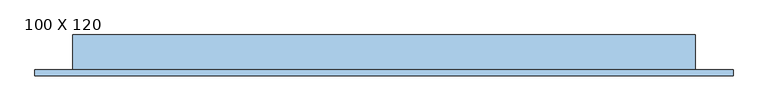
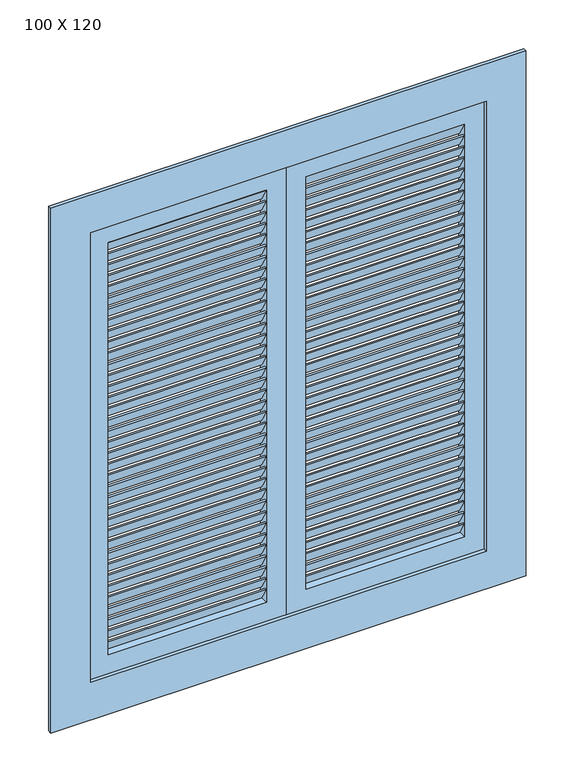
"""IFC4 building model written with IfcOpenShell, lengths in millimetres: window geometry, VENEZIANA DE ABRIR PARA FORA - 2 FOLHAS : 100 X 120."""

from ifc_helpers import new_model, si_unit, frame, origin, place, context, project, spatial, polyline, outline, extrude, source, transform, mapped, element, save


def window_100_x_120_d4ad384e(model_context):
    return source(origin(), model_context, "Body", "SweptSolid", [
        extrude(outline(polyline([(-55.8758395, 2085.4166667), (-75.8758395, 2120.4166667), (-70.8758395, 2120.4166667), (-50.8758395, 2085.4166667), (-55.8758395, 2085.4166667)])), frame((-320.5964491, 0.0, 0.0), z_axis=(1.0, 0.0, 0.0), x_axis=(0.0, 1.0, 0.0)), (0.0, 0.0, 1.0), 400.0),
        extrude(outline(polyline([(-55.8758395, 2055.8333333), (-75.8758395, 2090.8333333), (-70.8758395, 2090.8333333), (-50.8758395, 2055.8333333), (-55.8758395, 2055.8333333)])), frame((-320.5964491, 0.0, 0.0), z_axis=(1.0, 0.0, 0.0), x_axis=(0.0, 1.0, 0.0)), (0.0, 0.0, 1.0), 400.0),
        extrude(outline(polyline([(-55.8758395, 2026.25), (-75.8758395, 2061.25), (-70.8758395, 2061.25), (-50.8758395, 2026.25), (-55.8758395, 2026.25)])), frame((-320.5964491, 0.0, 0.0), z_axis=(1.0, 0.0, 0.0), x_axis=(0.0, 1.0, 0.0)), (0.0, 0.0, 1.0), 400.0),
        extrude(outline(polyline([(-55.8758395, 1996.6666667), (-75.8758395, 2031.6666667), (-70.8758395, 2031.6666667), (-50.8758395, 1996.6666667), (-55.8758395, 1996.6666667)])), frame((-320.5964491, 0.0, 0.0), z_axis=(1.0, 0.0, 0.0), x_axis=(0.0, 1.0, 0.0)), (0.0, 0.0, 1.0), 400.0),
        extrude(outline(polyline([(-55.8758395, 1967.0833333), (-75.8758395, 2002.0833333), (-70.8758395, 2002.0833333), (-50.8758395, 1967.0833333), (-55.8758395, 1967.0833333)])), frame((-320.5964491, 0.0, 0.0), z_axis=(1.0, 0.0, 0.0), x_axis=(0.0, 1.0, 0.0)), (0.0, 0.0, 1.0), 400.0),
        extrude(outline(polyline([(-55.8758395, 1937.5), (-75.8758395, 1972.5), (-70.8758395, 1972.5), (-50.8758395, 1937.5), (-55.8758395, 1937.5)])), frame((-320.5964491, 0.0, 0.0), z_axis=(1.0, 0.0, 0.0), x_axis=(0.0, 1.0, 0.0)), (0.0, 0.0, 1.0), 400.0),
        extrude(outline(polyline([(-55.8758395, 1907.9166667), (-75.8758395, 1942.9166667), (-70.8758395, 1942.9166667), (-50.8758395, 1907.9166667), (-55.8758395, 1907.9166667)])), frame((-320.5964491, 0.0, 0.0), z_axis=(1.0, 0.0, 0.0), x_axis=(0.0, 1.0, 0.0)), (0.0, 0.0, 1.0), 400.0),
        extrude(outline(polyline([(-55.8758395, 1878.3333333), (-75.8758395, 1913.3333333), (-70.8758395, 1913.3333333), (-50.8758395, 1878.3333333), (-55.8758395, 1878.3333333)])), frame((-320.5964491, 0.0, 0.0), z_axis=(1.0, 0.0, 0.0), x_axis=(0.0, 1.0, 0.0)), (0.0, 0.0, 1.0), 400.0),
        extrude(outline(polyline([(-55.8758395, 1848.75), (-75.8758395, 1883.75), (-70.8758395, 1883.75), (-50.8758395, 1848.75), (-55.8758395, 1848.75)])), frame((-320.5964491, 0.0, 0.0), z_axis=(1.0, 0.0, 0.0), x_axis=(0.0, 1.0, 0.0)), (0.0, 0.0, 1.0), 400.0),
        extrude(outline(polyline([(-55.8758395, 1819.1666667), (-75.8758395, 1854.1666667), (-70.8758395, 1854.1666667), (-50.8758395, 1819.1666667), (-55.8758395, 1819.1666667)])), frame((-320.5964491, 0.0, 0.0), z_axis=(1.0, 0.0, 0.0), x_axis=(0.0, 1.0, 0.0)), (0.0, 0.0, 1.0), 400.0),
        extrude(outline(polyline([(-55.8758395, 1789.5833333), (-75.8758395, 1824.5833333), (-70.8758395, 1824.5833333), (-50.8758395, 1789.5833333), (-55.8758395, 1789.5833333)])), frame((-320.5964491, 0.0, 0.0), z_axis=(1.0, 0.0, 0.0), x_axis=(0.0, 1.0, 0.0)), (0.0, 0.0, 1.0), 400.0),
        extrude(outline(polyline([(-55.8758395, 1760.0), (-75.8758395, 1795.0), (-70.8758395, 1795.0), (-50.8758395, 1760.0), (-55.8758395, 1760.0)])), frame((-320.5964491, 0.0, 0.0), z_axis=(1.0, 0.0, 0.0), x_axis=(0.0, 1.0, 0.0)), (0.0, 0.0, 1.0), 400.0),
        extrude(outline(polyline([(-55.8758395, 1730.4166667), (-75.8758395, 1765.4166667), (-70.8758395, 1765.4166667), (-50.8758395, 1730.4166667), (-55.8758395, 1730.4166667)])), frame((-320.5964491, 0.0, 0.0), z_axis=(1.0, 0.0, 0.0), x_axis=(0.0, 1.0, 0.0)), (0.0, 0.0, 1.0), 400.0),
        extrude(outline(polyline([(-55.8758395, 1700.8333333), (-75.8758395, 1735.8333333), (-70.8758395, 1735.8333333), (-50.8758395, 1700.8333333), (-55.8758395, 1700.8333333)])), frame((-320.5964491, 0.0, 0.0), z_axis=(1.0, 0.0, 0.0), x_axis=(0.0, 1.0, 0.0)), (0.0, 0.0, 1.0), 400.0),
        extrude(outline(polyline([(-55.8758395, 1671.25), (-75.8758395, 1706.25), (-70.8758395, 1706.25), (-50.8758395, 1671.25), (-55.8758395, 1671.25)])), frame((-320.5964491, 0.0, 0.0), z_axis=(1.0, 0.0, 0.0), x_axis=(0.0, 1.0, 0.0)), (0.0, 0.0, 1.0), 400.0),
        extrude(outline(polyline([(-55.8758395, 1641.6666667), (-75.8758395, 1676.6666667), (-70.8758395, 1676.6666667), (-50.8758395, 1641.6666667), (-55.8758395, 1641.6666667)])), frame((-320.5964491, 0.0, 0.0), z_axis=(1.0, 0.0, 0.0), x_axis=(0.0, 1.0, 0.0)), (0.0, 0.0, 1.0), 400.0),
        extrude(outline(polyline([(-55.8758395, 1612.0833333), (-75.8758395, 1647.0833333), (-70.8758395, 1647.0833333), (-50.8758395, 1612.0833333), (-55.8758395, 1612.0833333)])), frame((-320.5964491, 0.0, 0.0), z_axis=(1.0, 0.0, 0.0), x_axis=(0.0, 1.0, 0.0)), (0.0, 0.0, 1.0), 400.0),
        extrude(outline(polyline([(-55.8758395, 1582.5), (-75.8758395, 1617.5), (-70.8758395, 1617.5), (-50.8758395, 1582.5), (-55.8758395, 1582.5)])), frame((-320.5964491, 0.0, 0.0), z_axis=(1.0, 0.0, 0.0), x_axis=(0.0, 1.0, 0.0)), (0.0, 0.0, 1.0), 400.0),
        extrude(outline(polyline([(-55.8758395, 1552.9166667), (-75.8758395, 1587.9166667), (-70.8758395, 1587.9166667), (-50.8758395, 1552.9166667), (-55.8758395, 1552.9166667)])), frame((-320.5964491, 0.0, 0.0), z_axis=(1.0, 0.0, 0.0), x_axis=(0.0, 1.0, 0.0)), (0.0, 0.0, 1.0), 400.0),
        extrude(outline(polyline([(-55.8758395, 1523.3333333), (-75.8758395, 1558.3333333), (-70.8758395, 1558.3333333), (-50.8758395, 1523.3333333), (-55.8758395, 1523.3333333)])), frame((-320.5964491, 0.0, 0.0), z_axis=(1.0, 0.0, 0.0), x_axis=(0.0, 1.0, 0.0)), (0.0, 0.0, 1.0), 400.0),
        extrude(outline(polyline([(-55.8758395, 1493.75), (-75.8758395, 1528.75), (-70.8758395, 1528.75), (-50.8758395, 1493.75), (-55.8758395, 1493.75)])), frame((-320.5964491, 0.0, 0.0), z_axis=(1.0, 0.0, 0.0), x_axis=(0.0, 1.0, 0.0)), (0.0, 0.0, 1.0), 400.0),
        extrude(outline(polyline([(-55.8758395, 1464.1666667), (-75.8758395, 1499.1666667), (-70.8758395, 1499.1666667), (-50.8758395, 1464.1666667), (-55.8758395, 1464.1666667)])), frame((-320.5964491, 0.0, 0.0), z_axis=(1.0, 0.0, 0.0), x_axis=(0.0, 1.0, 0.0)), (0.0, 0.0, 1.0), 400.0),
        extrude(outline(polyline([(-55.8758395, 1434.5833333), (-75.8758395, 1469.5833333), (-70.8758395, 1469.5833333), (-50.8758395, 1434.5833333), (-55.8758395, 1434.5833333)])), frame((-320.5964491, 0.0, 0.0), z_axis=(1.0, 0.0, 0.0), x_axis=(0.0, 1.0, 0.0)), (0.0, 0.0, 1.0), 400.0),
        extrude(outline(polyline([(-55.8758395, 1405.0), (-75.8758395, 1440.0), (-70.8758395, 1440.0), (-50.8758395, 1405.0), (-55.8758395, 1405.0)])), frame((-320.5964491, 0.0, 0.0), z_axis=(1.0, 0.0, 0.0), x_axis=(0.0, 1.0, 0.0)), (0.0, 0.0, 1.0), 400.0),
        extrude(outline(polyline([(-55.8758395, 1375.4166667), (-75.8758395, 1410.4166667), (-70.8758395, 1410.4166667), (-50.8758395, 1375.4166667), (-55.8758395, 1375.4166667)])), frame((-320.5964491, 0.0, 0.0), z_axis=(1.0, 0.0, 0.0), x_axis=(0.0, 1.0, 0.0)), (0.0, 0.0, 1.0), 400.0),
        extrude(outline(polyline([(-55.8758395, 1345.8333333), (-75.8758395, 1380.8333333), (-70.8758395, 1380.8333333), (-50.8758395, 1345.8333333), (-55.8758395, 1345.8333333)])), frame((-320.5964491, 0.0, 0.0), z_axis=(1.0, 0.0, 0.0), x_axis=(0.0, 1.0, 0.0)), (0.0, 0.0, 1.0), 400.0),
        extrude(outline(polyline([(-55.8758395, 1316.25), (-75.8758395, 1351.25), (-70.8758395, 1351.25), (-50.8758395, 1316.25), (-55.8758395, 1316.25)])), frame((-320.5964491, 0.0, 0.0), z_axis=(1.0, 0.0, 0.0), x_axis=(0.0, 1.0, 0.0)), (0.0, 0.0, 1.0), 400.0),
        extrude(outline(polyline([(-55.8758395, 1286.6666667), (-75.8758395, 1321.6666667), (-70.8758395, 1321.6666667), (-50.8758395, 1286.6666667), (-55.8758395, 1286.6666667)])), frame((-320.5964491, 0.0, 0.0), z_axis=(1.0, 0.0, 0.0), x_axis=(0.0, 1.0, 0.0)), (0.0, 0.0, 1.0), 400.0),
        extrude(outline(polyline([(-55.8758395, 1257.0833333), (-75.8758395, 1292.0833333), (-70.8758395, 1292.0833333), (-50.8758395, 1257.0833333), (-55.8758395, 1257.0833333)])), frame((-320.5964491, 0.0, 0.0), z_axis=(1.0, 0.0, 0.0), x_axis=(0.0, 1.0, 0.0)), (0.0, 0.0, 1.0), 400.0),
        extrude(outline(polyline([(-55.8758395, 1227.5), (-75.8758395, 1262.5), (-70.8758395, 1262.5), (-50.8758395, 1227.5), (-55.8758395, 1227.5)])), frame((-320.5964491, 0.0, 0.0), z_axis=(1.0, 0.0, 0.0), x_axis=(0.0, 1.0, 0.0)), (0.0, 0.0, 1.0), 400.0),
        extrude(outline(polyline([(-55.8758395, 1197.9166667), (-75.8758395, 1232.9166667), (-70.8758395, 1232.9166667), (-50.8758395, 1197.9166667), (-55.8758395, 1197.9166667)])), frame((-320.5964491, 0.0, 0.0), z_axis=(1.0, 0.0, 0.0), x_axis=(0.0, 1.0, 0.0)), (0.0, 0.0, 1.0), 400.0),
        extrude(outline(polyline([(-55.8758395, 1168.3333333), (-75.8758395, 1203.3333333), (-70.8758395, 1203.3333333), (-50.8758395, 1168.3333333), (-55.8758395, 1168.3333333)])), frame((-320.5964491, 0.0, 0.0), z_axis=(1.0, 0.0, 0.0), x_axis=(0.0, 1.0, 0.0)), (0.0, 0.0, 1.0), 400.0),
        extrude(outline(polyline([(-55.8758395, 1138.75), (-75.8758395, 1173.75), (-70.8758395, 1173.75), (-50.8758395, 1138.75), (-55.8758395, 1138.75)])), frame((-320.5964491, 0.0, 0.0), z_axis=(1.0, 0.0, 0.0), x_axis=(0.0, 1.0, 0.0)), (0.0, 0.0, 1.0), 400.0),
        extrude(outline(polyline([(-55.8758395, 1109.1666667), (-75.8758395, 1144.1666667), (-70.8758395, 1144.1666667), (-50.8758395, 1109.1666667), (-55.8758395, 1109.1666667)])), frame((-320.5964491, 0.0, 0.0), z_axis=(1.0, 0.0, 0.0), x_axis=(0.0, 1.0, 0.0)), (0.0, 0.0, 1.0), 400.0),
        extrude(outline(polyline([(-55.8758395, 1079.5833333), (-75.8758395, 1114.5833333), (-70.8758395, 1114.5833333), (-50.8758395, 1079.5833333), (-55.8758395, 1079.5833333)])), frame((-320.5964491, 0.0, 0.0), z_axis=(1.0, 0.0, 0.0), x_axis=(0.0, 1.0, 0.0)), (0.0, 0.0, 1.0), 400.0),
        extrude(outline(polyline([(-55.8758395, 2115.0), (-75.8758395, 2150.0), (-70.8758395, 2150.0), (-50.8758395, 2115.0), (-55.8758395, 2115.0)])), frame((-320.5964491, 0.0, 0.0), z_axis=(1.0, 0.0, 0.0), x_axis=(0.0, 1.0, 0.0)), (0.0, 0.0, 1.0), 400.0),
        extrude(outline(polyline([(-55.8758395, 1050.0), (-75.8758395, 1085.0), (-70.8758395, 1085.0), (-50.8758395, 1050.0), (-55.8758395, 1050.0)])), frame((-320.5964491, 0.0, 0.0), z_axis=(1.0, 0.0, 0.0), x_axis=(0.0, 1.0, 0.0)), (0.0, 0.0, 1.0), 400.0),
        extrude(outline(polyline([(2200.0, 129.4035509), (2200.0, -370.5964491), (1000.0, -370.5964491), (1000.0, 129.4035509), (2200.0, 129.4035509)]), holes=[polyline([(2150.0, 79.4035509), (1050.0, 79.4035509), (1050.0, -320.5964491), (2150.0, -320.5964491), (2150.0, 79.4035509)])]), frame((0.0, -75.8758395, 0.0), z_axis=(0.0, 1.0, 0.0), x_axis=(0.0, 0.0, 1.0)), (0.0, 0.0, 1.0), 25.0),
        extrude(outline(polyline([(-55.8758395, 2085.4166667), (-75.8758395, 2120.4166667), (-70.8758395, 2120.4166667), (-50.8758395, 2085.4166667), (-55.8758395, 2085.4166667)])), frame((179.4035509, 0.0, 0.0), z_axis=(1.0, 0.0, 0.0), x_axis=(0.0, 1.0, 0.0)), (0.0, 0.0, 1.0), 400.0),
        extrude(outline(polyline([(-55.8758395, 2055.8333333), (-75.8758395, 2090.8333333), (-70.8758395, 2090.8333333), (-50.8758395, 2055.8333333), (-55.8758395, 2055.8333333)])), frame((179.4035509, 0.0, 0.0), z_axis=(1.0, 0.0, 0.0), x_axis=(0.0, 1.0, 0.0)), (0.0, 0.0, 1.0), 400.0),
        extrude(outline(polyline([(-55.8758395, 2026.25), (-75.8758395, 2061.25), (-70.8758395, 2061.25), (-50.8758395, 2026.25), (-55.8758395, 2026.25)])), frame((179.4035509, 0.0, 0.0), z_axis=(1.0, 0.0, 0.0), x_axis=(0.0, 1.0, 0.0)), (0.0, 0.0, 1.0), 400.0),
        extrude(outline(polyline([(-55.8758395, 1996.6666667), (-75.8758395, 2031.6666667), (-70.8758395, 2031.6666667), (-50.8758395, 1996.6666667), (-55.8758395, 1996.6666667)])), frame((179.4035509, 0.0, 0.0), z_axis=(1.0, 0.0, 0.0), x_axis=(0.0, 1.0, 0.0)), (0.0, 0.0, 1.0), 400.0),
        extrude(outline(polyline([(-55.8758395, 1967.0833333), (-75.8758395, 2002.0833333), (-70.8758395, 2002.0833333), (-50.8758395, 1967.0833333), (-55.8758395, 1967.0833333)])), frame((179.4035509, 0.0, 0.0), z_axis=(1.0, 0.0, 0.0), x_axis=(0.0, 1.0, 0.0)), (0.0, 0.0, 1.0), 400.0),
        extrude(outline(polyline([(-55.8758395, 1937.5), (-75.8758395, 1972.5), (-70.8758395, 1972.5), (-50.8758395, 1937.5), (-55.8758395, 1937.5)])), frame((179.4035509, 0.0, 0.0), z_axis=(1.0, 0.0, 0.0), x_axis=(0.0, 1.0, 0.0)), (0.0, 0.0, 1.0), 400.0),
        extrude(outline(polyline([(-55.8758395, 1907.9166667), (-75.8758395, 1942.9166667), (-70.8758395, 1942.9166667), (-50.8758395, 1907.9166667), (-55.8758395, 1907.9166667)])), frame((179.4035509, 0.0, 0.0), z_axis=(1.0, 0.0, 0.0), x_axis=(0.0, 1.0, 0.0)), (0.0, 0.0, 1.0), 400.0),
        extrude(outline(polyline([(-55.8758395, 1878.3333333), (-75.8758395, 1913.3333333), (-70.8758395, 1913.3333333), (-50.8758395, 1878.3333333), (-55.8758395, 1878.3333333)])), frame((179.4035509, 0.0, 0.0), z_axis=(1.0, 0.0, 0.0), x_axis=(0.0, 1.0, 0.0)), (0.0, 0.0, 1.0), 400.0),
        extrude(outline(polyline([(-55.8758395, 1848.75), (-75.8758395, 1883.75), (-70.8758395, 1883.75), (-50.8758395, 1848.75), (-55.8758395, 1848.75)])), frame((179.4035509, 0.0, 0.0), z_axis=(1.0, 0.0, 0.0), x_axis=(0.0, 1.0, 0.0)), (0.0, 0.0, 1.0), 400.0),
        extrude(outline(polyline([(-55.8758395, 1819.1666667), (-75.8758395, 1854.1666667), (-70.8758395, 1854.1666667), (-50.8758395, 1819.1666667), (-55.8758395, 1819.1666667)])), frame((179.4035509, 0.0, 0.0), z_axis=(1.0, 0.0, 0.0), x_axis=(0.0, 1.0, 0.0)), (0.0, 0.0, 1.0), 400.0),
        extrude(outline(polyline([(-55.8758395, 1789.5833333), (-75.8758395, 1824.5833333), (-70.8758395, 1824.5833333), (-50.8758395, 1789.5833333), (-55.8758395, 1789.5833333)])), frame((179.4035509, 0.0, 0.0), z_axis=(1.0, 0.0, 0.0), x_axis=(0.0, 1.0, 0.0)), (0.0, 0.0, 1.0), 400.0),
        extrude(outline(polyline([(-55.8758395, 1760.0), (-75.8758395, 1795.0), (-70.8758395, 1795.0), (-50.8758395, 1760.0), (-55.8758395, 1760.0)])), frame((179.4035509, 0.0, 0.0), z_axis=(1.0, 0.0, 0.0), x_axis=(0.0, 1.0, 0.0)), (0.0, 0.0, 1.0), 400.0),
        extrude(outline(polyline([(-55.8758395, 1730.4166667), (-75.8758395, 1765.4166667), (-70.8758395, 1765.4166667), (-50.8758395, 1730.4166667), (-55.8758395, 1730.4166667)])), frame((179.4035509, 0.0, 0.0), z_axis=(1.0, 0.0, 0.0), x_axis=(0.0, 1.0, 0.0)), (0.0, 0.0, 1.0), 400.0),
        extrude(outline(polyline([(-55.8758395, 1700.8333333), (-75.8758395, 1735.8333333), (-70.8758395, 1735.8333333), (-50.8758395, 1700.8333333), (-55.8758395, 1700.8333333)])), frame((179.4035509, 0.0, 0.0), z_axis=(1.0, 0.0, 0.0), x_axis=(0.0, 1.0, 0.0)), (0.0, 0.0, 1.0), 400.0),
        extrude(outline(polyline([(-55.8758395, 1671.25), (-75.8758395, 1706.25), (-70.8758395, 1706.25), (-50.8758395, 1671.25), (-55.8758395, 1671.25)])), frame((179.4035509, 0.0, 0.0), z_axis=(1.0, 0.0, 0.0), x_axis=(0.0, 1.0, 0.0)), (0.0, 0.0, 1.0), 400.0),
        extrude(outline(polyline([(-55.8758395, 1641.6666667), (-75.8758395, 1676.6666667), (-70.8758395, 1676.6666667), (-50.8758395, 1641.6666667), (-55.8758395, 1641.6666667)])), frame((179.4035509, 0.0, 0.0), z_axis=(1.0, 0.0, 0.0), x_axis=(0.0, 1.0, 0.0)), (0.0, 0.0, 1.0), 400.0),
        extrude(outline(polyline([(-55.8758395, 1612.0833333), (-75.8758395, 1647.0833333), (-70.8758395, 1647.0833333), (-50.8758395, 1612.0833333), (-55.8758395, 1612.0833333)])), frame((179.4035509, 0.0, 0.0), z_axis=(1.0, 0.0, 0.0), x_axis=(0.0, 1.0, 0.0)), (0.0, 0.0, 1.0), 400.0),
        extrude(outline(polyline([(-55.8758395, 1582.5), (-75.8758395, 1617.5), (-70.8758395, 1617.5), (-50.8758395, 1582.5), (-55.8758395, 1582.5)])), frame((179.4035509, 0.0, 0.0), z_axis=(1.0, 0.0, 0.0), x_axis=(0.0, 1.0, 0.0)), (0.0, 0.0, 1.0), 400.0),
        extrude(outline(polyline([(-55.8758395, 1552.9166667), (-75.8758395, 1587.9166667), (-70.8758395, 1587.9166667), (-50.8758395, 1552.9166667), (-55.8758395, 1552.9166667)])), frame((179.4035509, 0.0, 0.0), z_axis=(1.0, 0.0, 0.0), x_axis=(0.0, 1.0, 0.0)), (0.0, 0.0, 1.0), 400.0),
        extrude(outline(polyline([(-55.8758395, 1523.3333333), (-75.8758395, 1558.3333333), (-70.8758395, 1558.3333333), (-50.8758395, 1523.3333333), (-55.8758395, 1523.3333333)])), frame((179.4035509, 0.0, 0.0), z_axis=(1.0, 0.0, 0.0), x_axis=(0.0, 1.0, 0.0)), (0.0, 0.0, 1.0), 400.0),
        extrude(outline(polyline([(-55.8758395, 1493.75), (-75.8758395, 1528.75), (-70.8758395, 1528.75), (-50.8758395, 1493.75), (-55.8758395, 1493.75)])), frame((179.4035509, 0.0, 0.0), z_axis=(1.0, 0.0, 0.0), x_axis=(0.0, 1.0, 0.0)), (0.0, 0.0, 1.0), 400.0),
        extrude(outline(polyline([(-55.8758395, 1464.1666667), (-75.8758395, 1499.1666667), (-70.8758395, 1499.1666667), (-50.8758395, 1464.1666667), (-55.8758395, 1464.1666667)])), frame((179.4035509, 0.0, 0.0), z_axis=(1.0, 0.0, 0.0), x_axis=(0.0, 1.0, 0.0)), (0.0, 0.0, 1.0), 400.0),
        extrude(outline(polyline([(-55.8758395, 1434.5833333), (-75.8758395, 1469.5833333), (-70.8758395, 1469.5833333), (-50.8758395, 1434.5833333), (-55.8758395, 1434.5833333)])), frame((179.4035509, 0.0, 0.0), z_axis=(1.0, 0.0, 0.0), x_axis=(0.0, 1.0, 0.0)), (0.0, 0.0, 1.0), 400.0),
        extrude(outline(polyline([(-55.8758395, 1405.0), (-75.8758395, 1440.0), (-70.8758395, 1440.0), (-50.8758395, 1405.0), (-55.8758395, 1405.0)])), frame((179.4035509, 0.0, 0.0), z_axis=(1.0, 0.0, 0.0), x_axis=(0.0, 1.0, 0.0)), (0.0, 0.0, 1.0), 400.0),
        extrude(outline(polyline([(-55.8758395, 1375.4166667), (-75.8758395, 1410.4166667), (-70.8758395, 1410.4166667), (-50.8758395, 1375.4166667), (-55.8758395, 1375.4166667)])), frame((179.4035509, 0.0, 0.0), z_axis=(1.0, 0.0, 0.0), x_axis=(0.0, 1.0, 0.0)), (0.0, 0.0, 1.0), 400.0),
        extrude(outline(polyline([(-55.8758395, 1345.8333333), (-75.8758395, 1380.8333333), (-70.8758395, 1380.8333333), (-50.8758395, 1345.8333333), (-55.8758395, 1345.8333333)])), frame((179.4035509, 0.0, 0.0), z_axis=(1.0, 0.0, 0.0), x_axis=(0.0, 1.0, 0.0)), (0.0, 0.0, 1.0), 400.0),
        extrude(outline(polyline([(-55.8758395, 1316.25), (-75.8758395, 1351.25), (-70.8758395, 1351.25), (-50.8758395, 1316.25), (-55.8758395, 1316.25)])), frame((179.4035509, 0.0, 0.0), z_axis=(1.0, 0.0, 0.0), x_axis=(0.0, 1.0, 0.0)), (0.0, 0.0, 1.0), 400.0),
        extrude(outline(polyline([(-55.8758395, 1286.6666667), (-75.8758395, 1321.6666667), (-70.8758395, 1321.6666667), (-50.8758395, 1286.6666667), (-55.8758395, 1286.6666667)])), frame((179.4035509, 0.0, 0.0), z_axis=(1.0, 0.0, 0.0), x_axis=(0.0, 1.0, 0.0)), (0.0, 0.0, 1.0), 400.0),
        extrude(outline(polyline([(-55.8758395, 1257.0833333), (-75.8758395, 1292.0833333), (-70.8758395, 1292.0833333), (-50.8758395, 1257.0833333), (-55.8758395, 1257.0833333)])), frame((179.4035509, 0.0, 0.0), z_axis=(1.0, 0.0, 0.0), x_axis=(0.0, 1.0, 0.0)), (0.0, 0.0, 1.0), 400.0),
        extrude(outline(polyline([(-55.8758395, 1227.5), (-75.8758395, 1262.5), (-70.8758395, 1262.5), (-50.8758395, 1227.5), (-55.8758395, 1227.5)])), frame((179.4035509, 0.0, 0.0), z_axis=(1.0, 0.0, 0.0), x_axis=(0.0, 1.0, 0.0)), (0.0, 0.0, 1.0), 400.0),
        extrude(outline(polyline([(-55.8758395, 1197.9166667), (-75.8758395, 1232.9166667), (-70.8758395, 1232.9166667), (-50.8758395, 1197.9166667), (-55.8758395, 1197.9166667)])), frame((179.4035509, 0.0, 0.0), z_axis=(1.0, 0.0, 0.0), x_axis=(0.0, 1.0, 0.0)), (0.0, 0.0, 1.0), 400.0),
        extrude(outline(polyline([(-55.8758395, 1168.3333333), (-75.8758395, 1203.3333333), (-70.8758395, 1203.3333333), (-50.8758395, 1168.3333333), (-55.8758395, 1168.3333333)])), frame((179.4035509, 0.0, 0.0), z_axis=(1.0, 0.0, 0.0), x_axis=(0.0, 1.0, 0.0)), (0.0, 0.0, 1.0), 400.0),
        extrude(outline(polyline([(-55.8758395, 1138.75), (-75.8758395, 1173.75), (-70.8758395, 1173.75), (-50.8758395, 1138.75), (-55.8758395, 1138.75)])), frame((179.4035509, 0.0, 0.0), z_axis=(1.0, 0.0, 0.0), x_axis=(0.0, 1.0, 0.0)), (0.0, 0.0, 1.0), 400.0),
        extrude(outline(polyline([(-55.8758395, 1109.1666667), (-75.8758395, 1144.1666667), (-70.8758395, 1144.1666667), (-50.8758395, 1109.1666667), (-55.8758395, 1109.1666667)])), frame((179.4035509, 0.0, 0.0), z_axis=(1.0, 0.0, 0.0), x_axis=(0.0, 1.0, 0.0)), (0.0, 0.0, 1.0), 400.0),
        extrude(outline(polyline([(-55.8758395, 1079.5833333), (-75.8758395, 1114.5833333), (-70.8758395, 1114.5833333), (-50.8758395, 1079.5833333), (-55.8758395, 1079.5833333)])), frame((179.4035509, 0.0, 0.0), z_axis=(1.0, 0.0, 0.0), x_axis=(0.0, 1.0, 0.0)), (0.0, 0.0, 1.0), 400.0),
        extrude(outline(polyline([(-55.8758395, 2115.0), (-75.8758395, 2150.0), (-70.8758395, 2150.0), (-50.8758395, 2115.0), (-55.8758395, 2115.0)])), frame((179.4035509, 0.0, 0.0), z_axis=(1.0, 0.0, 0.0), x_axis=(0.0, 1.0, 0.0)), (0.0, 0.0, 1.0), 400.0),
        extrude(outline(polyline([(-55.8758395, 1050.0), (-75.8758395, 1085.0), (-70.8758395, 1085.0), (-50.8758395, 1050.0), (-55.8758395, 1050.0)])), frame((179.4035509, 0.0, 0.0), z_axis=(1.0, 0.0, 0.0), x_axis=(0.0, 1.0, 0.0)), (0.0, 0.0, 1.0), 400.0),
        extrude(outline(polyline([(2200.0, 129.4035509), (1000.0, 129.4035509), (1000.0, 629.4035509), (2200.0, 629.4035509), (2200.0, 129.4035509)]), holes=[polyline([(2150.0, 179.4035509), (2150.0, 579.4035509), (1050.0, 579.4035509), (1050.0, 179.4035509), (2150.0, 179.4035509)])]), frame((0.0, -75.8758395, 0.0), z_axis=(0.0, 1.0, 0.0), x_axis=(0.0, 0.0, 1.0)), (0.0, 0.0, 1.0), 25.0),
        extrude(outline(polyline([(900.0, -470.5964491), (900.0, 729.4035509), (2300.0, 729.4035509), (2300.0, -470.5964491), (900.0, -470.5964491)]), holes=[polyline([(2200.0, -370.5964491), (2200.0, 629.4035509), (1000.0, 629.4035509), (1000.0, -370.5964491), (2200.0, -370.5964491)])]), frame((0.0, -85.8758395, 0.0), z_axis=(0.0, 1.0, 0.0), x_axis=(0.0, 0.0, 1.0)), (0.0, 0.0, 1.0), 10.0),
        extrude(outline(polyline([(-405.5964491, -15.8758395), (-370.5964491, -15.8758395), (-370.5964491, -75.8758395), (-405.5964491, -75.8758395), (-405.5964491, -15.8758395)])), frame((0.0, 0.0, 1000.0), z_axis=(0.0, 0.0, 1.0), x_axis=(1.0, 0.0, 0.0)), (0.0, 0.0, 1.0), 1200.0),
        extrude(outline(polyline([(629.4035509, -15.8758395), (664.4035509, -15.8758395), (664.4035509, -75.8758395), (629.4035509, -75.8758395), (629.4035509, -15.8758395)])), frame((0.0, 0.0, 1000.0), z_axis=(0.0, 0.0, 1.0), x_axis=(1.0, 0.0, 0.0)), (0.0, 0.0, 1.0), 1200.0),
        extrude(outline(polyline([(-405.5964491, -15.8758395), (664.4035509, -15.8758395), (664.4035509, -75.8758395), (-405.5964491, -75.8758395), (-405.5964491, -15.8758395)])), frame((0.0, 0.0, 965.0), z_axis=(0.0, 0.0, 1.0), x_axis=(1.0, 0.0, 0.0)), (0.0, 0.0, 1.0), 35.0),
        extrude(outline(polyline([(-405.5964491, -15.8758395), (664.4035509, -15.8758395), (664.4035509, -75.8758395), (-405.5964491, -75.8758395), (-405.5964491, -15.8758395)])), frame((0.0, 0.0, 2200.0), z_axis=(0.0, 0.0, 1.0), x_axis=(1.0, 0.0, 0.0)), (0.0, 0.0, 1.0), 35.0),
    ])


if __name__ == "__main__":
    model = new_model("IFC4")
    model_context = context("Model", 3, world=origin())
    ifc_project = project(units=[si_unit("LENGTHUNIT", "METRE", prefix="MILLI")], contexts=[model_context])
    site = spatial("IfcSite", under=ifc_project)
    building = spatial("IfcBuilding", under=site)
    placement = place(None, origin())
    window_100_x_120_shape = window_100_x_120_d4ad384e(model_context)
    element("IfcWindow", 1, ObjectType="VENEZIANA DE ABRIR PARA FORA - 2 FOLHAS : 100 X 120", at=placement, inside=building, context=model_context, shape_type="MappedRepresentation", body=[
        mapped(window_100_x_120_shape, transform((0.0, 0.0, 0.0), x_axis=(1.0, 0.0, 0.0), y_axis=(0.0, 1.0, 0.0), z_axis=(0.0, 0.0, 1.0))),
    ])
    save(model, "model.ifc")
